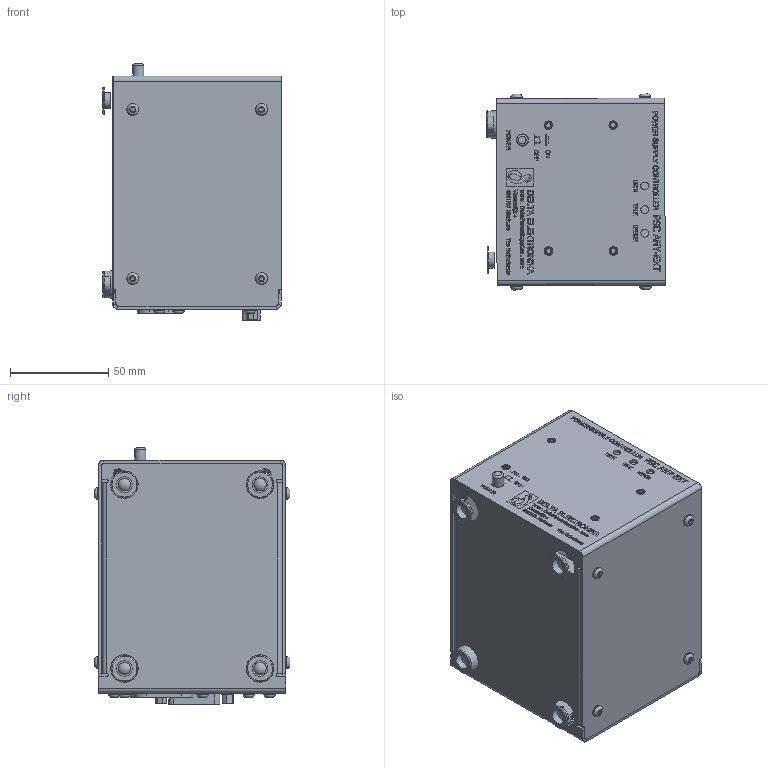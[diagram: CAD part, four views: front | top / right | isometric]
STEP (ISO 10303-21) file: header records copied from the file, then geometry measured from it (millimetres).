
FILE_DESCRIPTION(/* description */ (''),/* implementation_level */ '2;1');
FILE_NAME(/* name */ 'PSC ANY-EXT.stp',/* time_stamp */ '2024-11-04T13:41:11+01:00',/* author */ ('Simon'),/* organization */ (''),/* preprocessor_version */ 'ST-DEVELOPER v19.2',/* originating_system */ 'Autodesk Inventor 2024',/* authorisation */ '');
FILE_SCHEMA (('AUTOMOTIVE_DESIGN { 1 0 10303 214 3 1 1 }'));
Products named in the file (1): _Assembly anybus-ext_Simplify_1
Bounding box: 90.68 x 99.54 x 130.29 mm (x, y, z)
Volume: 908485.6 mm3; surface area: 87422.1 mm2
Topology: 1 solids, 190 shells, 5631 faces, 15152 edges, 10107 vertices
Faces by surface type: plane 3908, bspline 936, cylinder 638, cone 106, torus 39, sphere 4
Full cylindrical faces by diameter (mm): 0.43 x50, 0.6 x3, 0.7 x1, 1 x15, 2.156 x2, 2.459 x12, 2.5 x2, 2.75 x2, 3.2 x2, 4 x9, 4.14 x8, 4.3 x16, 5.8 x1, 6 x16, 6.2 x3, 6.35 x4, 8 x4
Entity records: 191241 total; most frequent: CARTESIAN_POINT 48967, ORIENTED_EDGE 29418, DIRECTION 24808, EDGE_CURVE 15186, LINE 11394, VECTOR 11394, VERTEX_POINT 10107, AXIS2_PLACEMENT_3D 6707
